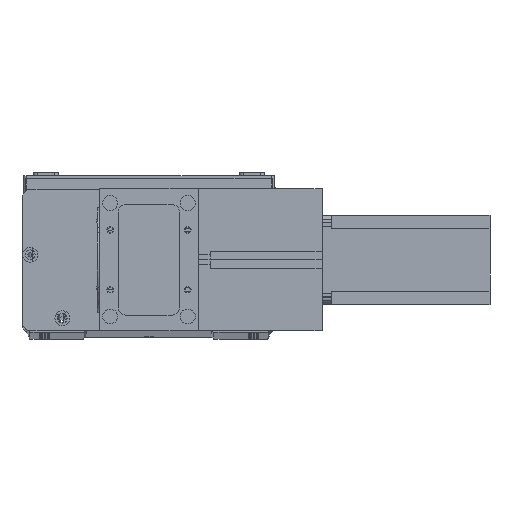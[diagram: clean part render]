
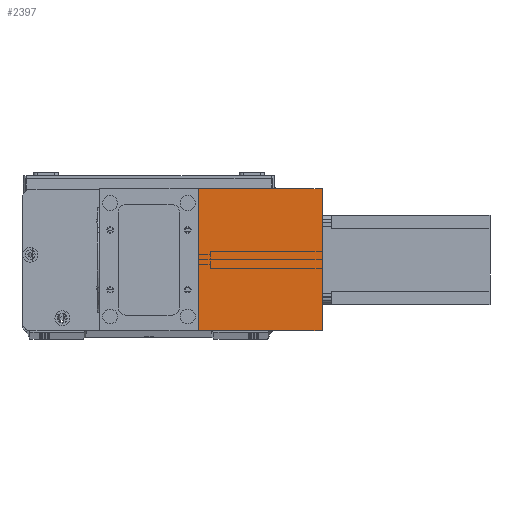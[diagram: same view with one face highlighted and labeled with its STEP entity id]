
A CAD part, top view. The second image highlights one B-rep face of the part: STEP entity #2397.
In plain terms, the highlighted planar face has unit normal (0, 0, 1) as drawn and (1, 0, 0) by its records, which use the part's own axes.
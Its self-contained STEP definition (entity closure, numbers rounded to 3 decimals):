
#713 = VECTOR ( 'NONE', #14580, 1000. ) ;
#1910 = EDGE_CURVE ( 'NONE', #21098, #20592, #3191, .T. ) ;
#2397 = ADVANCED_FACE ( 'NONE', ( #20326 ), #21385, .F. ) ;
#3191 = LINE ( 'NONE', #4585, #15160 ) ;
#3694 = VECTOR ( 'NONE', #24794, 1000. ) ;
#4259 = DIRECTION ( 'NONE',  ( 0., 1., 0. ) ) ;
#4585 = CARTESIAN_POINT ( 'NONE',  ( 82., 0., 0. ) ) ;
#11220 = DIRECTION ( 'NONE',  ( 0., 0., 1. ) ) ;
#12409 = LINE ( 'NONE', #12518, #30251 ) ;
#12518 = CARTESIAN_POINT ( 'NONE',  ( 82., 95., 83. ) ) ;
#13473 = LINE ( 'NONE', #23848, #713 ) ;
#14194 = CARTESIAN_POINT ( 'NONE',  ( 82., 0., 0. ) ) ;
#14269 = AXIS2_PLACEMENT_3D ( 'NONE', #18848, #26622, #11220 ) ;
#14580 = DIRECTION ( 'NONE',  ( 0., 1., 0. ) ) ;
#15160 = VECTOR ( 'NONE', #4259, 1000. ) ;
#17648 = VERTEX_POINT ( 'NONE', #28425 ) ;
#18848 = CARTESIAN_POINT ( 'NONE',  ( 82., 0., 83. ) ) ;
#19295 = EDGE_LOOP ( 'NONE', ( #20703, #19514, #24822, #23390 ) ) ;
#19514 = ORIENTED_EDGE ( 'NONE', *, *, #26278, .F. ) ;
#20214 = CARTESIAN_POINT ( 'NONE',  ( 82., 0., 83. ) ) ;
#20326 = FACE_OUTER_BOUND ( 'NONE', #19295, .T. ) ;
#20592 = VERTEX_POINT ( 'NONE', #28623 ) ;
#20703 = ORIENTED_EDGE ( 'NONE', *, *, #1910, .T. ) ;
#21098 = VERTEX_POINT ( 'NONE', #14194 ) ;
#21385 = PLANE ( 'NONE',  #14269 ) ;
#23001 = VERTEX_POINT ( 'NONE', #30049 ) ;
#23390 = ORIENTED_EDGE ( 'NONE', *, *, #30319, .T. ) ;
#23848 = CARTESIAN_POINT ( 'NONE',  ( 82., 0., 83. ) ) ;
#24794 = DIRECTION ( 'NONE',  ( 0., 0., -1. ) ) ;
#24822 = ORIENTED_EDGE ( 'NONE', *, *, #29955, .F. ) ;
#26278 = EDGE_CURVE ( 'NONE', #23001, #20592, #12409, .T. ) ;
#26531 = DIRECTION ( 'NONE',  ( 0., 0., -1. ) ) ;
#26622 = DIRECTION ( 'NONE',  ( -1., 0., 0. ) ) ;
#28425 = CARTESIAN_POINT ( 'NONE',  ( 82., 0., 83. ) ) ;
#28623 = CARTESIAN_POINT ( 'NONE',  ( 82., 95., 0. ) ) ;
#28785 = LINE ( 'NONE', #20214, #3694 ) ;
#29955 = EDGE_CURVE ( 'NONE', #17648, #23001, #13473, .T. ) ;
#30049 = CARTESIAN_POINT ( 'NONE',  ( 82., 95., 83. ) ) ;
#30251 = VECTOR ( 'NONE', #26531, 1000. ) ;
#30319 = EDGE_CURVE ( 'NONE', #17648, #21098, #28785, .T. ) ;
